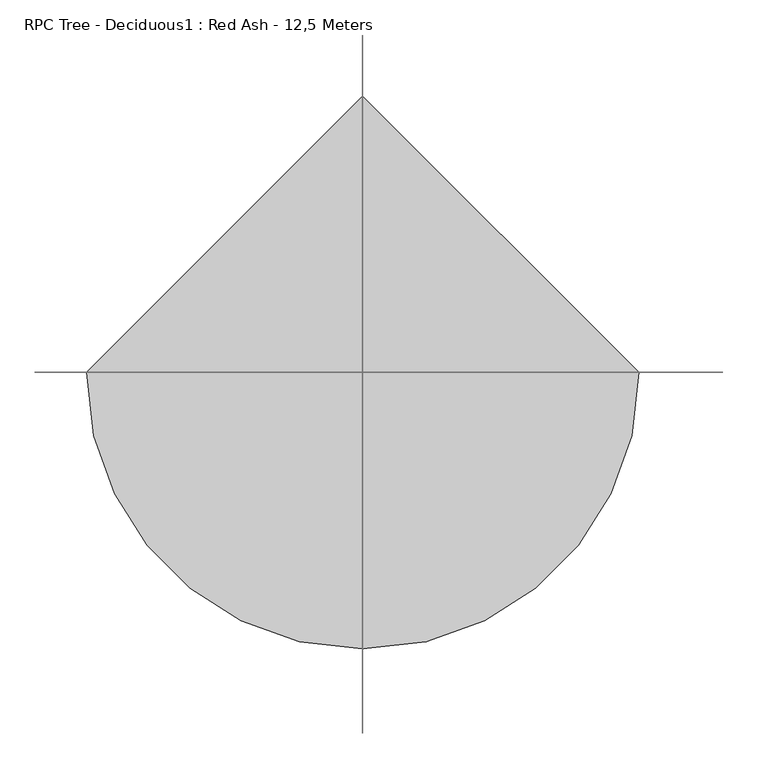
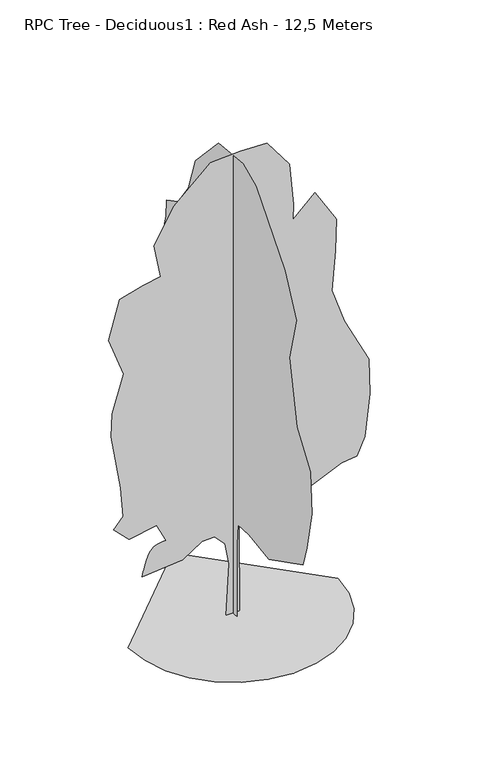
"""IFC4 building model written with IfcOpenShell, lengths in millimetres: geographic element geometry, RPC Tree - Deciduous1 : Red Ash - 12,5 Meters."""

from ifc_helpers import new_model, si_unit, origin, place, context, project, spatial, triangles, source, transform, mapped, element, save


def rpc_tree_deciduous1_red_ash_12_5_meters_90b8b03f(model_context):
    return source(origin(), model_context, "Body", "Tessellation", [
        triangles([(-2698.4129082, 0.0, 0.0001015), (-2627.0754021, -618.2977976, 0.0001015), (-2423.908152, -1186.1054358, 0.0001015), (-2105.1777523, -1687.1544308, 0.0001015), (-1687.1547215, -2105.1781883, 0.0001015), (-1186.1051451, -2423.9075706, 0.0001015), (-618.2975069, -2627.0754021, 0.0001015), (0.000118, -2698.4129082, 0.0001015), (618.2978703, -2627.0754021, 0.0001015), (1186.1055084, -2423.9080067, 0.0001015), (1687.1547215, -2105.1777523, 0.0001015), (2105.1786243, -1687.1547215, 0.0001015), (2423.907716, -1186.1050724, 0.0001015), (2627.0754021, -618.2974342, 0.0001015), (2698.4129082, 0.0002359, 0.0001015), (-0.0003539, 2698.4129082, 0.0001015), (-1.76e-05, -168.7110502, 0.0), (4.11e-05, -166.0871369, 1959.5703609), (5.3e-05, -213.0609594, 2522.6425323), (1.1e-06, -719.8579502, 2556.045726), (-9.48e-05, -1601.6917694, 2425.0441292), (-0.0002305, -3122.8556053, 3196.6487755), (-0.0002318, -3299.2224564, 3769.841114), (-0.0002232, -3519.6810928, 4828.0419296), (-0.0001835, -3453.5438507, 5930.3345306), (-9.53e-05, -2854.9574226, 6793.0074554), (-9.1e-06, -2505.5752602, 8465.6082687), (-5.8e-06, -2814.2145607, 9656.0844406), (7.87e-05, -2307.1604816, 10714.2855469), (0.0002574, -1028.5012476, 12235.4496735), (0.0003257, -448.1638873, 12497.0383575), (0.0004367, 646.9842733, 12389.7716492), (0.000512, 1683.1395596, 11287.4784668), (0.0005166, 1991.7819122, 10361.5524261), (0.0005451, 2454.7428978, 9700.1765167), (0.0005901, 2961.7997383, 9435.6263855), (0.0005793, 2983.8454857, 8994.7085312), (0.000578, 3116.120842, 8487.6545975), (0.0005373, 2895.6622055, 7892.4165115), (0.0005409, 3094.0750946, 7319.224173), (0.0005379, 3292.487693, 6525.5737793), (0.0005267, 3248.3961983, 6305.1145615), (0.0004719, 2873.6167488, 5776.0137177), (0.0004477, 2849.9205208, 5048.5005661), (0.0004318, 2829.5246727, 4585.5378365), (0.000417, 2851.5707108, 4012.3460793), (0.0003957, 2873.6170395, 3218.6953949), (0.0003562, 2564.9745415, 2976.1907204), (0.0002965, 1991.7826389, 2976.1907204), (0.0002997, 2256.3329155, 2160.493998), (0.0002813, 2212.0982609, 1697.6452148), (0.0002488, 1809.4341763, 2014.1673191), (0.0001618, 1032.5831205, 1815.4652035), (0.0001607, 905.0390888, 2226.1498741), (0.0001031, 354.1876104, 2221.1328838), (8.24e-05, 214.5689524, 2014.9844204), (5.36e-05, 130.4943149, 1342.3279495), (1.92e-05, 183.9993612, 2.1e-05), (-181.8747816, 8e-06, 7.31e-05), (-109.4348355, -0.0001582, 1367.2927048), (-212.1182662, -0.000223, 1948.7262554), (-477.0142339, -0.0002461, 2239.6943962), (-793.3669081, -0.000231, 2228.8325592), (-1306.2135841, -0.0001689, 1895.9438667), (-2342.3687977, -0.0001131, 1807.7605865), (-2328.0358063, -0.0001205, 1864.7714962), (-2312.7386295, -0.0001282, 1923.7103405), (-2295.5135181, -0.0001365, 1986.5053448), (-2275.3957054, -0.0001455, 2055.0858971), (-2251.4220234, -0.0001557, 2131.3774612), (-2222.6274147, -0.0001672, 2217.3120415), (-2188.0482754, -0.0001803, 2314.8148109), (-2144.4708481, -0.000193, 2405.2480991), (-2090.4808296, -0.0002032, 2471.3854866), (-2027.8140152, -0.0002114, 2517.2762901), (-1958.2054733, -0.000218, 2546.9715706), (-1883.3911446, -0.0002234, 2564.5175926), (-1805.1055161, -0.0002279, 2573.9658531), (-1725.0846737, -0.0002321, 2579.3652328), (-1967.5889122, -0.0002793, 3064.3740005), (-2673.0566071, -0.0002327, 2932.0986443), (-3069.8815132, -0.0002626, 3328.9247131), (-2827.3771294, -0.0003074, 3615.5208824), (-2893.5143715, -0.0003991, 4409.1718575), (-3136.0187553, -0.0005646, 5886.2430359), (-3114.3058365, -0.0006385, 6497.9748825), (-2821.387088, -0.000769, 7485.7704025), (-3202.1565788, -0.0008771, 8531.7455109), (-2915.5601189, -0.0010105, 9545.8557037), (-2320.3226143, -0.0010576, 9722.2222641), (-1867.4756916, -0.0010869, 9802.1040161), (-2033.726881, -0.0011857, 10692.2392181), (-1526.6716393, -0.0013156, 11596.1200928), (-578.6996332, -0.0014596, 12455.9083099), (192.9046679, -0.0014985, 12499.9998047), (876.3266699, -0.0015258, 12477.953476), (1449.5189358, -0.0014589, 11706.349411), (1554.9082878, -0.0013288, 10576.636972), (1539.7750546, -0.0012788, 10162.3517944), (2110.8941185, -0.0013669, 10692.2392181), (2662.0407097, -0.0012832, 9788.3595062), (2639.9949623, -0.0011805, 8934.5627838), (2541.7608421, -0.0010499, 7875.0855927), (2860.4533081, -0.0009529, 6944.4441422), (3496.9882919, -0.0008313, 5690.9415848), (3517.282402, -0.0007194, 4745.4222633), (3389.5538612, -0.0005792, 3615.5203011), (3191.1412628, -0.0005153, 3152.5572807), (2794.3157753, -0.0004927, 3108.4654953), (2022.7109837, -0.0004169, 2755.7317932), (1339.2888908, -0.0003292, 2270.7231709), (422.3696769, -0.0003362, 2664.9751236), (152.6424997, -0.0002898, 2374.7288864), (170.8583392, -7.5e-06, 5.77e-05)], [[15, 16, 1], [14, 15, 1], [14, 1, 2], [13, 14, 2], [13, 2, 3], [13, 3, 4], [12, 13, 4], [11, 12, 4], [11, 4, 5], [11, 5, 6], [11, 6, 7], [11, 7, 8], [11, 8, 9], [11, 9, 10], [50, 51, 52], [57, 58, 17], [57, 17, 18], [56, 57, 18], [56, 18, 19], [55, 56, 19], [49, 50, 52], [52, 53, 54], [49, 52, 54], [35, 36, 37], [46, 47, 48], [46, 48, 49], [21, 22, 23], [20, 21, 23], [20, 23, 24], [20, 24, 25], [20, 25, 26], [19, 20, 26], [19, 26, 27], [45, 46, 49], [31, 32, 33], [30, 31, 33], [29, 30, 33], [29, 33, 34], [28, 29, 34], [27, 28, 34], [19, 27, 34], [19, 34, 35], [19, 35, 37], [19, 37, 38], [19, 38, 39], [19, 39, 40], [19, 40, 41], [19, 41, 42], [19, 42, 43], [19, 43, 44], [19, 44, 45], [19, 45, 49], [19, 49, 54], [55, 19, 54], [64, 65, 66], [64, 66, 67], [64, 67, 68], [99, 100, 101], [64, 68, 69], [64, 69, 70], [64, 70, 71], [114, 59, 60], [113, 114, 60], [113, 60, 61], [113, 61, 62], [64, 71, 72], [64, 72, 73], [64, 73, 74], [64, 74, 75], [64, 75, 76], [64, 76, 77], [64, 77, 78], [64, 78, 79], [63, 64, 79], [81, 82, 83], [80, 81, 83], [99, 101, 102], [107, 108, 109], [110, 111, 112], [88, 89, 90], [87, 88, 90], [87, 90, 91], [80, 83, 84], [95, 96, 97], [95, 97, 98], [94, 95, 98], [93, 94, 98], [92, 93, 98], [91, 92, 98], [91, 98, 99], [87, 91, 99], [87, 99, 102], [87, 102, 103], [87, 103, 104], [86, 87, 104], [85, 86, 104], [84, 85, 104], [80, 84, 104], [80, 104, 105], [80, 105, 106], [80, 106, 107], [80, 107, 109], [80, 109, 110], [80, 110, 112], [79, 80, 112], [63, 79, 112], [62, 63, 112], [113, 62, 112]], closed=False),
    ])


if __name__ == "__main__":
    model = new_model("IFC4")
    model_context = context("Model", 3, world=origin())
    ifc_project = project(units=[si_unit("LENGTHUNIT", "METRE", prefix="MILLI")], contexts=[model_context])
    site = spatial("IfcSite", under=ifc_project)
    building = spatial("IfcBuilding", under=site)
    placement = place(None, origin())
    rpc_tree_deciduous1_red_ash_12_5_meters_shape = rpc_tree_deciduous1_red_ash_12_5_meters_90b8b03f(model_context)
    element("IfcGeographicElement", 1, ObjectType="RPC Tree - Deciduous1 : Red Ash - 12,5 Meters", at=placement, inside=building, context=model_context, shape_type="MappedRepresentation", body=[
        mapped(rpc_tree_deciduous1_red_ash_12_5_meters_shape, transform((0.0, 0.0, 0.0), x_axis=(1.0, 0.0, 0.0), y_axis=(0.0, 1.0, 0.0), z_axis=(0.0, 0.0, 1.0))),
    ])
    save(model, "model.ifc")
